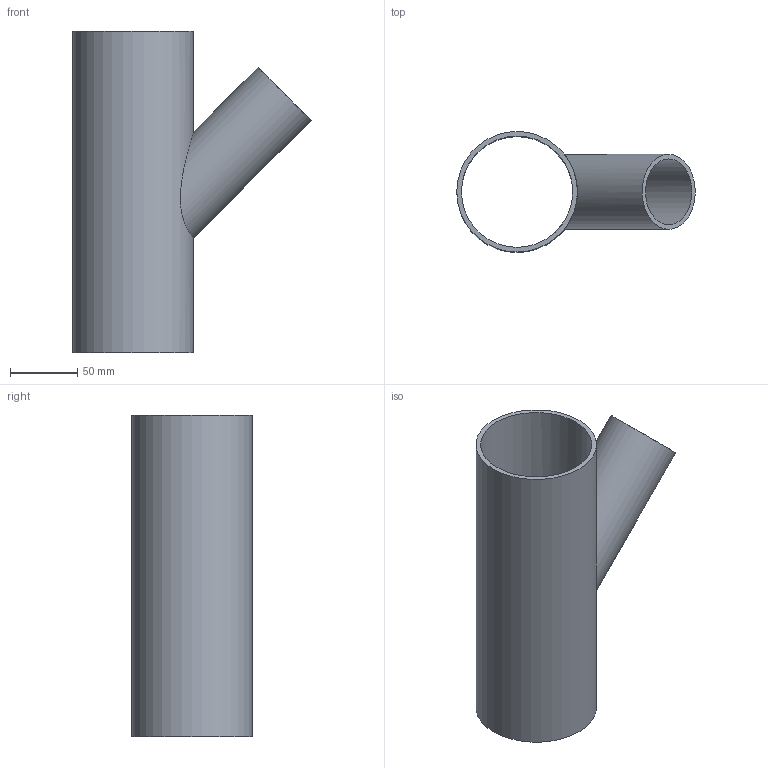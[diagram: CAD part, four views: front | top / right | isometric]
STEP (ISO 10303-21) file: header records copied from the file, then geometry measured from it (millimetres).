
FILE_DESCRIPTION(/* description */ (''),/* implementation_level */ '2;1');
FILE_NAME(/* name */ 'C:\Planerdaten\Export PLA\PRO_101557\stp\366115.stp',/* time_stamp */ '2021-09-30T15:05:36+02:00',/* author */ ('JANAN'),/* organization */ (''),/* preprocessor_version */ 'ST-DEVELOPER v16.13',/* originating_system */ 'Autodesk Inventor 2018',/* authorisation */ '');
FILE_SCHEMA (('AUTOMOTIVE_DESIGN { 1 0 10303 214 3 1 1 }'));
Length unit declared in the file: millimetre
Products named in the file (1): tmpED0C.tmp
Bounding box: 177.94 x 90 x 240 mm (x, y, z)
Volume: 277456.7 mm3; surface area: 161003.1 mm2
Topology: 1 solids, 1 shells, 7 faces, 17 edges, 12 vertices
Faces by surface type: cylinder 4, plane 3
Full cylindrical faces by diameter (mm): 49 x1, 56 x1, 83 x1, 90 x1
Entity records: 320 total; most frequent: CARTESIAN_POINT 142, DIRECTION 28, EDGE_LOOP 16, ORIENTED_EDGE 16, AXIS2_PLACEMENT_3D 14, FACE_BOUND 9, VERTEX_POINT 8, EDGE_CURVE 8
